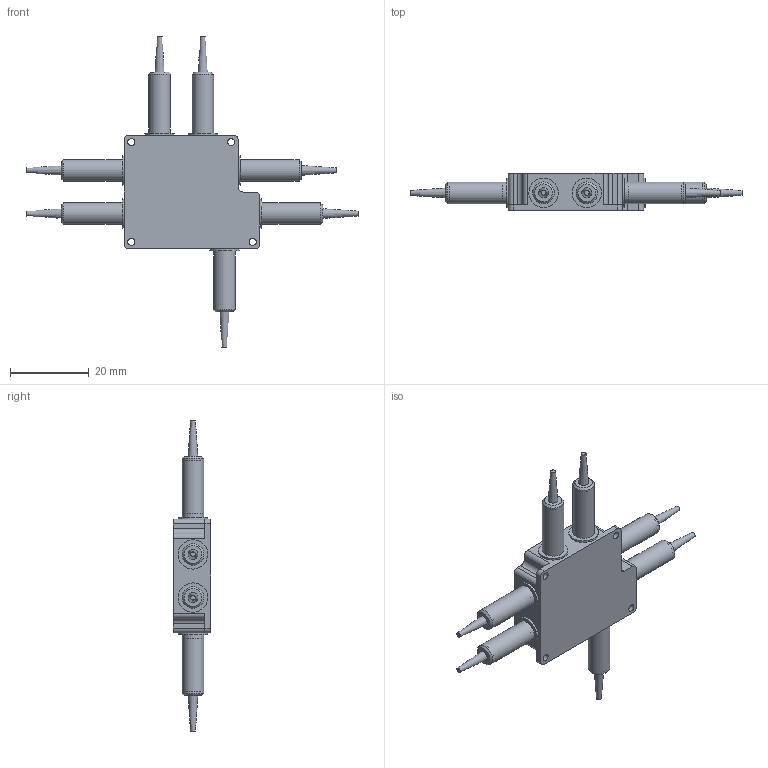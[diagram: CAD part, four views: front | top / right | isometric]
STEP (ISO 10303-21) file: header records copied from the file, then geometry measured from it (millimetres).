
FILE_DESCRIPTION (( 'STEP AP203' ), '1' );
FILE_NAME ('polarimeter.STEP', '2026-10-28T14:14:21', ( 'cad' ), ( '' ), 'SwSTEP 2.0', 'SolidWorks 2017', '' );
FILE_SCHEMA (( 'CONFIG_CONTROL_DESIGN' ));
Length unit declared in the file: millimetre
Products named in the file (7): polarimeter; 1002610_box; colimater holder; 1002612_cover; End cap_3; End cap_4; End cap
Assembly tree (18 placements, depth 3):
  polarimeter
    1002610_box
    colimater holder  x7
    1002612_cover
    End cap  x7
      End cap_3
      End cap_4
Bounding box: 84.5 x 9.5 x 79 mm (x, y, z)
Volume: 5906.6 mm3; surface area: 11998.5 mm2
Topology: 23 solids, 23 shells, 436 faces, 1269 edges, 943 vertices
Faces by surface type: plane 225, cylinder 148, bspline 42, cone 21
Full cylindrical faces by diameter (mm): 1.8 x4, 2 x21, 3.4 x7, 4.6 x7, 5 x14, 5.1 x7, 5.5 x7, 6 x7, 7.5 x7
Entity records: 16290 total; most frequent: CARTESIAN_POINT 7665, ORIENTED_EDGE 1690, DIRECTION 1372, EDGE_CURVE 845, VERTEX_POINT 686, VECTOR 514, LINE 514, AXIS2_PLACEMENT_3D 429
